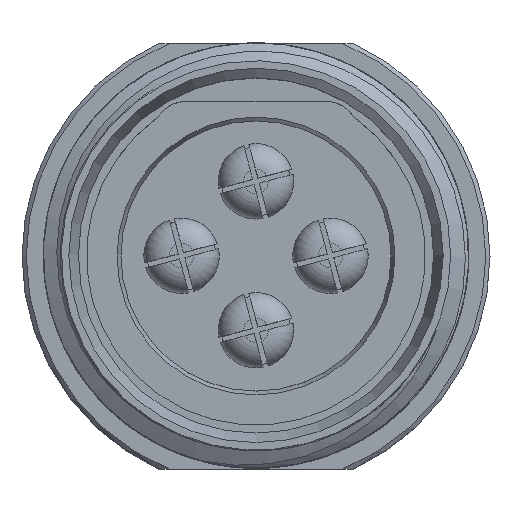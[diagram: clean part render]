
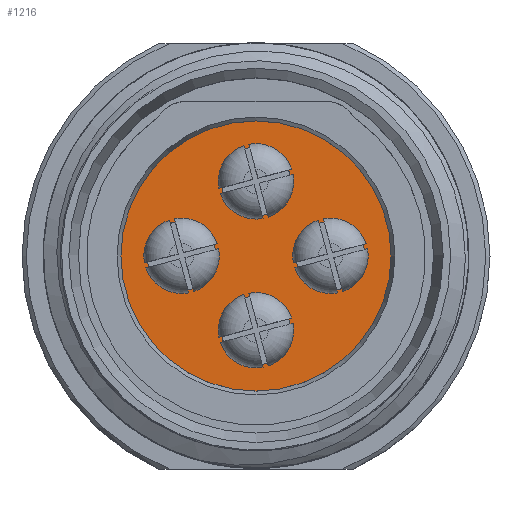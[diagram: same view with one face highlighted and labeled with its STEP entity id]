
A CAD part, top view. The second image highlights one B-rep face of the part: STEP entity #1216.
In plain terms, the highlighted planar face has unit normal (0, 0, 1).
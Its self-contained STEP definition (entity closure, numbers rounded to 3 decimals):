
#437 = DIRECTION ( 'NONE',  ( 0., 0., 1. ) ) ;
#447 = EDGE_LOOP ( 'NONE', ( #5841 ) ) ;
#982 = CARTESIAN_POINT ( 'NONE',  ( -3.5, 0., 0. ) ) ;
#1016 = DIRECTION ( 'NONE',  ( 1., 0., 0. ) ) ;
#1216 = ADVANCED_FACE ( 'NONE', ( #9464, #6025, #8610, #1829, #4511 ), #1233, .T. ) ;
#1233 = PLANE ( 'NONE',  #3160 ) ;
#1259 = CARTESIAN_POINT ( 'NONE',  ( 0.818, 4.904, 0. ) ) ;
#1573 = DIRECTION ( 'NONE',  ( 0.503, 0.864, 0. ) ) ;
#1818 = EDGE_LOOP ( 'NONE', ( #1948 ) ) ;
#1829 = FACE_BOUND ( 'NONE', #4086, .T. ) ;
#1948 = ORIENTED_EDGE ( 'NONE', *, *, #1976, .F. ) ;
#1976 = EDGE_CURVE ( 'NONE', #9386, #9386, #3341, .T. ) ;
#2008 = EDGE_CURVE ( 'NONE', #8481, #8481, #4892, .T. ) ;
#2024 = ORIENTED_EDGE ( 'NONE', *, *, #2008, .F. ) ;
#2567 = DIRECTION ( 'NONE',  ( 0., 0., 1. ) ) ;
#3000 = DIRECTION ( 'NONE',  ( 0.864, -0.503, 0. ) ) ;
#3033 = CARTESIAN_POINT ( 'NONE',  ( 0., 0., 0. ) ) ;
#3160 = AXIS2_PLACEMENT_3D ( 'NONE', #4561, #437, #1016 ) ;
#3341 = CIRCLE ( 'NONE', #8343, 1.625 ) ;
#3740 = AXIS2_PLACEMENT_3D ( 'NONE', #3033, #9566, #5513 ) ;
#3924 = CARTESIAN_POINT ( 'NONE',  ( 4.904, -0.818, 0. ) ) ;
#4086 = EDGE_LOOP ( 'NONE', ( #2024 ) ) ;
#4096 = CARTESIAN_POINT ( 'NONE',  ( 0., 3.5, 0. ) ) ;
#4155 = DIRECTION ( 'NONE',  ( 0., 0., 1. ) ) ;
#4204 = AXIS2_PLACEMENT_3D ( 'NONE', #4096, #8204, #1573 ) ;
#4356 = CIRCLE ( 'NONE', #7802, 1.625 ) ;
#4427 = EDGE_CURVE ( 'NONE', #4488, #4488, #5270, .T. ) ;
#4488 = VERTEX_POINT ( 'NONE', #10200 ) ;
#4511 = FACE_OUTER_BOUND ( 'NONE', #6927, .T. ) ;
#4561 = CARTESIAN_POINT ( 'NONE',  ( 0., 0., 0. ) ) ;
#4820 = EDGE_LOOP ( 'NONE', ( #8504 ) ) ;
#4892 = CIRCLE ( 'NONE', #4204, 1.625 ) ;
#5170 = DIRECTION ( 'NONE',  ( -0.864, 0.503, 0. ) ) ;
#5270 = CIRCLE ( 'NONE', #10269, 1.625 ) ;
#5513 = DIRECTION ( 'NONE',  ( 0., 1., 0. ) ) ;
#5719 = DIRECTION ( 'NONE',  ( -0.503, -0.864, 0. ) ) ;
#5841 = ORIENTED_EDGE ( 'NONE', *, *, #10151, .F. ) ;
#6025 = FACE_BOUND ( 'NONE', #1818, .T. ) ;
#6157 = EDGE_CURVE ( 'NONE', #6215, #6215, #7023, .T. ) ;
#6215 = VERTEX_POINT ( 'NONE', #10081 ) ;
#6310 = CARTESIAN_POINT ( 'NONE',  ( 3.5, 0., 0. ) ) ;
#6927 = EDGE_LOOP ( 'NONE', ( #9534 ) ) ;
#7023 = CIRCLE ( 'NONE', #3740, 6.35 ) ;
#7125 = DIRECTION ( 'NONE',  ( 0., 0., 1. ) ) ;
#7248 = CARTESIAN_POINT ( 'NONE',  ( 0., -3.5, 0. ) ) ;
#7802 = AXIS2_PLACEMENT_3D ( 'NONE', #6310, #7125, #3000 ) ;
#8204 = DIRECTION ( 'NONE',  ( 0., 0., 1. ) ) ;
#8343 = AXIS2_PLACEMENT_3D ( 'NONE', #7248, #4155, #5719 ) ;
#8481 = VERTEX_POINT ( 'NONE', #1259 ) ;
#8504 = ORIENTED_EDGE ( 'NONE', *, *, #4427, .F. ) ;
#8610 = FACE_BOUND ( 'NONE', #447, .T. ) ;
#9332 = CARTESIAN_POINT ( 'NONE',  ( -0.818, -4.904, 0. ) ) ;
#9386 = VERTEX_POINT ( 'NONE', #9332 ) ;
#9464 = FACE_BOUND ( 'NONE', #4820, .T. ) ;
#9534 = ORIENTED_EDGE ( 'NONE', *, *, #6157, .F. ) ;
#9566 = DIRECTION ( 'NONE',  ( 0., 0., -1. ) ) ;
#10081 = CARTESIAN_POINT ( 'NONE',  ( 0., 6.35, 0. ) ) ;
#10151 = EDGE_CURVE ( 'NONE', #10355, #10355, #4356, .T. ) ;
#10200 = CARTESIAN_POINT ( 'NONE',  ( -4.904, 0.818, 0. ) ) ;
#10269 = AXIS2_PLACEMENT_3D ( 'NONE', #982, #2567, #5170 ) ;
#10355 = VERTEX_POINT ( 'NONE', #3924 ) ;
